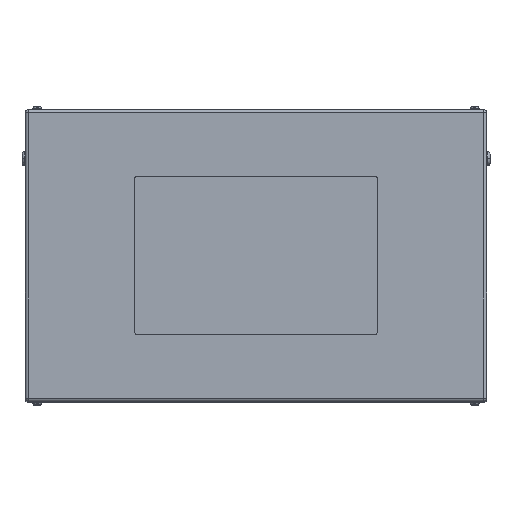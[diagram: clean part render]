
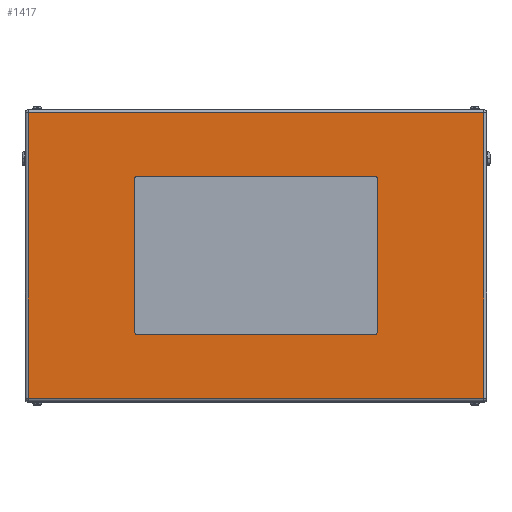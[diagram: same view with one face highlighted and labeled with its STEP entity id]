
A CAD part, top view. The second image highlights one B-rep face of the part: STEP entity #1417.
In plain terms, the highlighted planar face has unit normal (0, 0, 1).
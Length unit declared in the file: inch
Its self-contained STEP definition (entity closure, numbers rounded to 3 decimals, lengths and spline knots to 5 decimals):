
#180 = LINE ( 'NONE', #17086, #1550 ) ;
#371 = DIRECTION ( 'NONE',  ( -1., 0., 0. ) ) ;
#984 = CARTESIAN_POINT ( 'NONE',  ( 9.75, -6.25, 25.5 ) ) ;
#1077 = FACE_OUTER_BOUND ( 'NONE', #11121, .T. ) ;
#1194 = DIRECTION ( 'NONE',  ( 1., 0., 0. ) ) ;
#1417 = ADVANCED_FACE ( 'NONE', ( #9444, #1077 ), #7986, .F. ) ;
#1550 = VECTOR ( 'NONE', #11505, 39.37008 ) ;
#1763 = DIRECTION ( 'NONE',  ( -1., 0., 0. ) ) ;
#1950 = CARTESIAN_POINT ( 'NONE',  ( -9.75, 6.5, 25.5 ) ) ;
#1965 = CARTESIAN_POINT ( 'NONE',  ( 18.734, 12., 25.5 ) ) ;
#1991 = CARTESIAN_POINT ( 'NONE',  ( 19., 12., 25.5 ) ) ;
#2113 = ORIENTED_EDGE ( 'NONE', *, *, #12784, .F. ) ;
#2145 = DIRECTION ( 'NONE',  ( 0., -1., 0. ) ) ;
#2211 = VERTEX_POINT ( 'NONE', #5883 ) ;
#2341 = ORIENTED_EDGE ( 'NONE', *, *, #10265, .F. ) ;
#2408 = DIRECTION ( 'NONE',  ( 0., -1., 0. ) ) ;
#2448 = DIRECTION ( 'NONE',  ( 0., 0., 1. ) ) ;
#2470 = LINE ( 'NONE', #14091, #13469 ) ;
#2849 = ORIENTED_EDGE ( 'NONE', *, *, #3556, .T. ) ;
#2879 = VERTEX_POINT ( 'NONE', #15682 ) ;
#2896 = VERTEX_POINT ( 'NONE', #15559 ) ;
#2908 = LINE ( 'NONE', #9013, #6315 ) ;
#3164 = VECTOR ( 'NONE', #14691, 39.37008 ) ;
#3501 = ORIENTED_EDGE ( 'NONE', *, *, #7467, .F. ) ;
#3556 = EDGE_CURVE ( 'NONE', #8936, #2879, #5862, .T. ) ;
#3666 = VERTEX_POINT ( 'NONE', #16694 ) ;
#3986 = VERTEX_POINT ( 'NONE', #7051 ) ;
#4064 = ORIENTED_EDGE ( 'NONE', *, *, #10966, .F. ) ;
#4394 = CARTESIAN_POINT ( 'NONE',  ( 9.75, 6.5, 25.5 ) ) ;
#5179 = CARTESIAN_POINT ( 'NONE',  ( 18.734, -11.734, 25.5 ) ) ;
#5226 = CARTESIAN_POINT ( 'NONE',  ( -18.734, 12., 25.5 ) ) ;
#5313 = ORIENTED_EDGE ( 'NONE', *, *, #15589, .F. ) ;
#5413 = CARTESIAN_POINT ( 'NONE',  ( -9.75, -6.25, 25.5 ) ) ;
#5712 = LINE ( 'NONE', #5226, #14698 ) ;
#5862 = LINE ( 'NONE', #1965, #3164 ) ;
#5883 = CARTESIAN_POINT ( 'NONE',  ( -9.75, 6.5, 25.5 ) ) ;
#6174 = EDGE_CURVE ( 'NONE', #14675, #2211, #18065, .T. ) ;
#6315 = VECTOR ( 'NONE', #11967, 39.37008 ) ;
#7051 = CARTESIAN_POINT ( 'NONE',  ( 9.75, -6.5, 25.5 ) ) ;
#7076 = VERTEX_POINT ( 'NONE', #13894 ) ;
#7326 = DIRECTION ( 'NONE',  ( -1., 0., 0. ) ) ;
#7467 = EDGE_CURVE ( 'NONE', #9042, #11455, #2908, .T. ) ;
#7663 = EDGE_CURVE ( 'NONE', #3986, #9042, #9698, .T. ) ;
#7964 = AXIS2_PLACEMENT_3D ( 'NONE', #5413, #13974, #15433 ) ;
#7986 = PLANE ( 'NONE',  #9758 ) ;
#8292 = CARTESIAN_POINT ( 'NONE',  ( -9.75, 6.25, 25.5 ) ) ;
#8608 = CARTESIAN_POINT ( 'NONE',  ( 19., 11.734, 25.5 ) ) ;
#8936 = VERTEX_POINT ( 'NONE', #5179 ) ;
#8987 = ORIENTED_EDGE ( 'NONE', *, *, #17419, .T. ) ;
#9013 = CARTESIAN_POINT ( 'NONE',  ( 10., 6.25, 25.5 ) ) ;
#9030 = DIRECTION ( 'NONE',  ( 0., 0., 1. ) ) ;
#9042 = VERTEX_POINT ( 'NONE', #14044 ) ;
#9097 = CARTESIAN_POINT ( 'NONE',  ( 9.75, 6.25, 25.5 ) ) ;
#9122 = ORIENTED_EDGE ( 'NONE', *, *, #7663, .F. ) ;
#9444 = FACE_BOUND ( 'NONE', #13042, .T. ) ;
#9698 = CIRCLE ( 'NONE', #10823, 0.25 ) ;
#9758 = AXIS2_PLACEMENT_3D ( 'NONE', #1991, #13660, #16277 ) ;
#9972 = EDGE_CURVE ( 'NONE', #2879, #7076, #18437, .T. ) ;
#10265 = EDGE_CURVE ( 'NONE', #2896, #15167, #15031, .T. ) ;
#10823 = AXIS2_PLACEMENT_3D ( 'NONE', #984, #2448, #16970 ) ;
#10966 = EDGE_CURVE ( 'NONE', #3666, #3986, #180, .T. ) ;
#11121 = EDGE_LOOP ( 'NONE', ( #12590, #8987, #2849, #14622 ) ) ;
#11339 = AXIS2_PLACEMENT_3D ( 'NONE', #9097, #9030, #371 ) ;
#11455 = VERTEX_POINT ( 'NONE', #12940 ) ;
#11482 = CIRCLE ( 'NONE', #11339, 0.25 ) ;
#11498 = VECTOR ( 'NONE', #2145, 39.37008 ) ;
#11505 = DIRECTION ( 'NONE',  ( 1., 0., 0. ) ) ;
#11967 = DIRECTION ( 'NONE',  ( 0., 1., 0. ) ) ;
#11987 = ORIENTED_EDGE ( 'NONE', *, *, #6174, .F. ) ;
#12435 = CIRCLE ( 'NONE', #14388, 0.25 ) ;
#12590 = ORIENTED_EDGE ( 'NONE', *, *, #13576, .T. ) ;
#12646 = DIRECTION ( 'NONE',  ( 1., 0., 0. ) ) ;
#12742 = VERTEX_POINT ( 'NONE', #12956 ) ;
#12784 = EDGE_CURVE ( 'NONE', #2211, #2896, #12435, .T. ) ;
#12840 = VECTOR ( 'NONE', #7326, 39.37008 ) ;
#12940 = CARTESIAN_POINT ( 'NONE',  ( 10., 6.25, 25.5 ) ) ;
#12956 = CARTESIAN_POINT ( 'NONE',  ( -18.734, -11.734, 25.5 ) ) ;
#13042 = EDGE_LOOP ( 'NONE', ( #4064, #16860, #2341, #2113, #11987, #5313, #3501, #9122 ) ) ;
#13469 = VECTOR ( 'NONE', #1194, 39.37008 ) ;
#13576 = EDGE_CURVE ( 'NONE', #7076, #12742, #5712, .T. ) ;
#13660 = DIRECTION ( 'NONE',  ( 0., 0., -1. ) ) ;
#13894 = CARTESIAN_POINT ( 'NONE',  ( -18.734, 11.734, 25.5 ) ) ;
#13974 = DIRECTION ( 'NONE',  ( 0., 0., 1. ) ) ;
#14044 = CARTESIAN_POINT ( 'NONE',  ( 10., -6.25, 25.5 ) ) ;
#14091 = CARTESIAN_POINT ( 'NONE',  ( 18.734, -11.734, 25.5 ) ) ;
#14388 = AXIS2_PLACEMENT_3D ( 'NONE', #8292, #18275, #12646 ) ;
#14529 = EDGE_CURVE ( 'NONE', #15167, #3666, #15029, .T. ) ;
#14622 = ORIENTED_EDGE ( 'NONE', *, *, #9972, .T. ) ;
#14675 = VERTEX_POINT ( 'NONE', #4394 ) ;
#14691 = DIRECTION ( 'NONE',  ( 0., 1., 0. ) ) ;
#14698 = VECTOR ( 'NONE', #2408, 39.37008 ) ;
#14779 = CARTESIAN_POINT ( 'NONE',  ( -10., -6.25, 25.5 ) ) ;
#15029 = CIRCLE ( 'NONE', #7964, 0.25 ) ;
#15031 = LINE ( 'NONE', #16384, #11498 ) ;
#15167 = VERTEX_POINT ( 'NONE', #14779 ) ;
#15433 = DIRECTION ( 'NONE',  ( 1., 0., 0. ) ) ;
#15559 = CARTESIAN_POINT ( 'NONE',  ( -10., 6.25, 25.5 ) ) ;
#15589 = EDGE_CURVE ( 'NONE', #11455, #14675, #11482, .T. ) ;
#15682 = CARTESIAN_POINT ( 'NONE',  ( 18.734, 11.734, 25.5 ) ) ;
#16277 = DIRECTION ( 'NONE',  ( -1., 0., 0. ) ) ;
#16384 = CARTESIAN_POINT ( 'NONE',  ( -10., 6.25, 25.5 ) ) ;
#16694 = CARTESIAN_POINT ( 'NONE',  ( -9.75, -6.5, 25.5 ) ) ;
#16860 = ORIENTED_EDGE ( 'NONE', *, *, #14529, .F. ) ;
#16970 = DIRECTION ( 'NONE',  ( 1., 0., 0. ) ) ;
#17086 = CARTESIAN_POINT ( 'NONE',  ( -9.75, -6.5, 25.5 ) ) ;
#17419 = EDGE_CURVE ( 'NONE', #12742, #8936, #2470, .T. ) ;
#17818 = VECTOR ( 'NONE', #1763, 39.37008 ) ;
#18065 = LINE ( 'NONE', #1950, #17818 ) ;
#18275 = DIRECTION ( 'NONE',  ( 0., 0., 1. ) ) ;
#18437 = LINE ( 'NONE', #8608, #12840 ) ;
